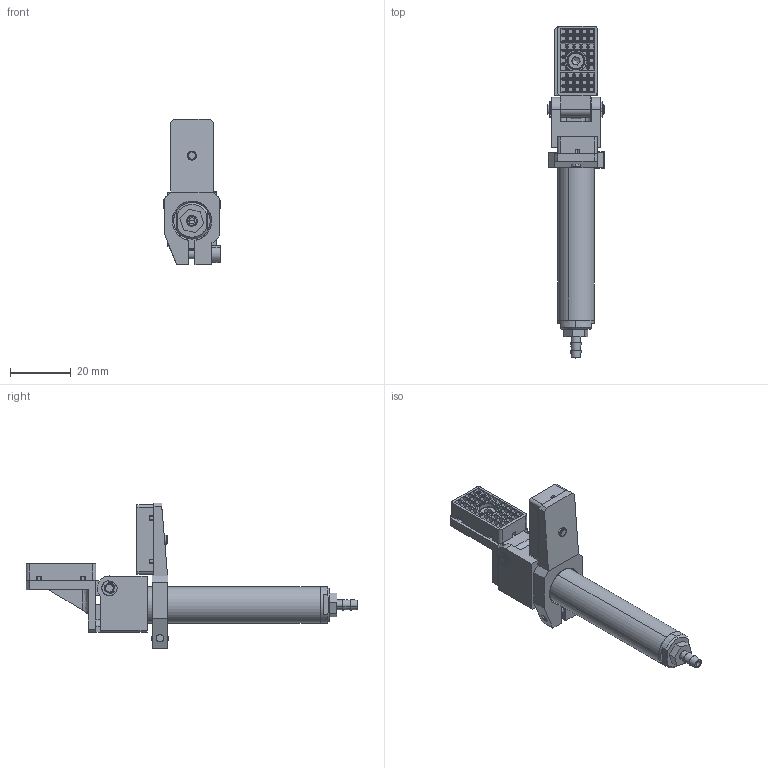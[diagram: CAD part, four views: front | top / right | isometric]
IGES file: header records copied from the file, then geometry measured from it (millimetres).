
Start section: SolidWorks IGES file using analytic representation for surfaces
Global section: file name: \\172.16.1.143\star‹¤—L\050ŠJ”­•”\001.‹@Ží‚²‚ÆŽ‘—¿\eins\J25410G-30,40\J25410G-40\090262.IGS; native system: SolidWorks 2021; preprocessor: SolidWorks 2021; author: STAR089C; date: 220201.152625; units: millimetre
Bounding box: 18.95 x 109.4 x 48 mm (x, y, z)
Surface area: 15746.3 mm2 (no closed solid volume)
Topology: 0 solids, 0 shells, 967 faces, 9360 edges, 9352 vertices
Faces by surface type: bspline 705, revolution 262
